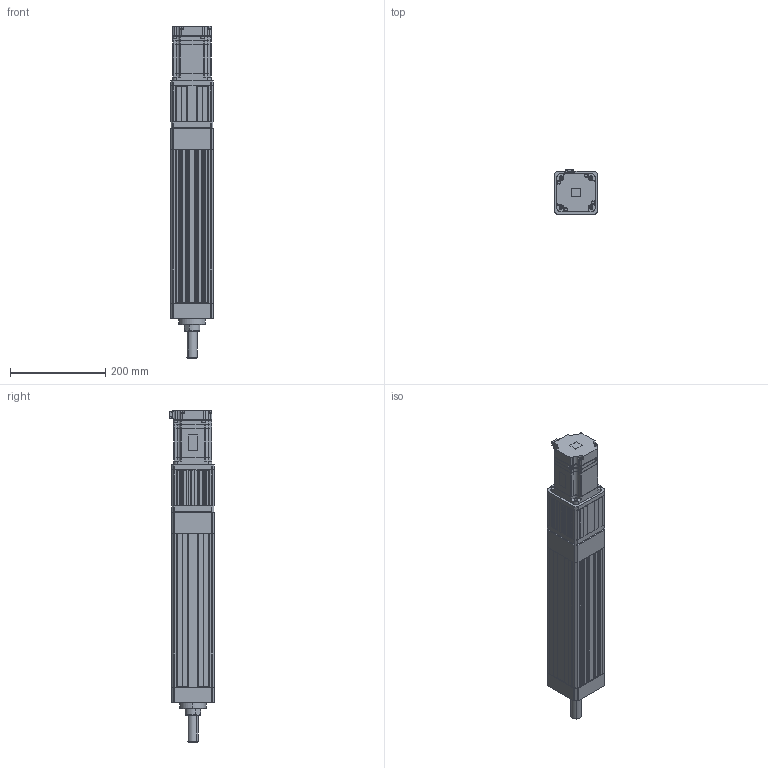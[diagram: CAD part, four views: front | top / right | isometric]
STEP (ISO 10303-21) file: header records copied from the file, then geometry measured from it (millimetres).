
FILE_DESCRIPTION (( 'STEP AP203' ), '1' );
FILE_NAME ('ANS090R-S200-05(10)(20)-W75-M.STEP', '2019-03-02T10:54:13', ( 'user' ), ( '' ), 'SwSTEP 2.0', 'SolidWorks 2013', '' );
FILE_SCHEMA (( 'CONFIG_CONTROL_DESIGN' ));
Length unit declared in the file: millimetre
Products named in the file (4): ANS090R-S200-05(10)(20)-W75-M; ANS090R S200 VER2; SGMJV_08A_A21; ANS090 ROD ST200-M
Assembly tree (3 placements, depth 2):
  ANS090R-S200-05(10)(20)-W75-M
    ANS090R S200 VER2
    SGMJV_08A_A21
    ANS090 ROD ST200-M
Bounding box: 90 x 93.8 x 696.1 mm (x, y, z)
Volume: 2917712.4 mm3; surface area: 474278 mm2
Topology: 3 solids, 3 shells, 1438 faces, 3878 edges, 2504 vertices
Faces by surface type: plane 930, cylinder 404, cone 100, bspline 4
Entity records: 45220 total; most frequent: CARTESIAN_POINT 8496, ORIENTED_EDGE 7708, DIRECTION 7414, EDGE_CURVE 3854, LINE 2890, VECTOR 2890, VERTEX_POINT 2504, AXIS2_PLACEMENT_3D 2262
